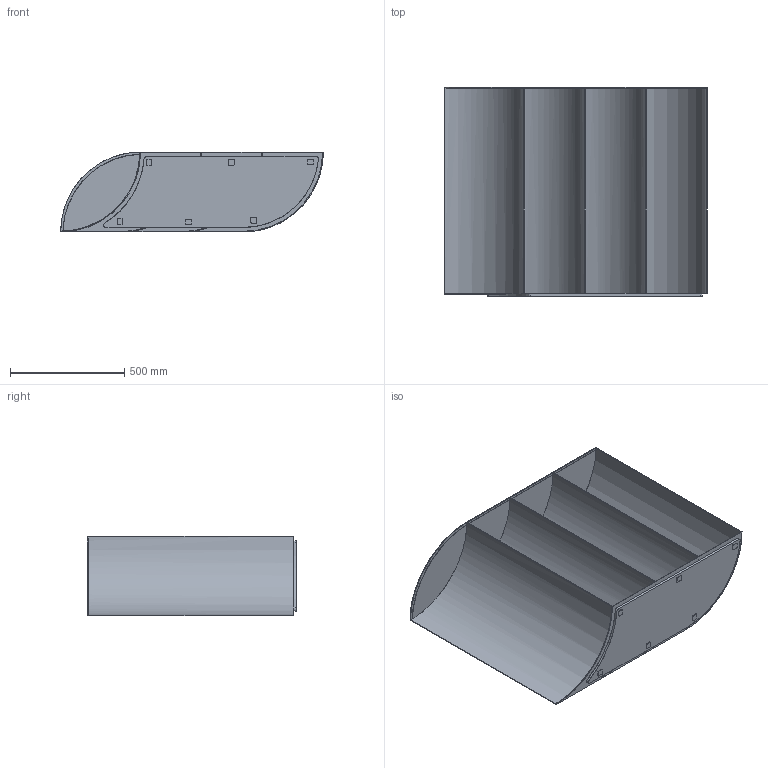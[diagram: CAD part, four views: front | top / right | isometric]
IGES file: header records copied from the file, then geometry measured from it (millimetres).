
Start section: SolidWorks IGES file using analytic representation for surfaces
Global section: file name: \\UTENTI\Dati Utenti\Tecnico\DC\2D - 3D per sito\3D\DeCastelli-3D-Sinestesia.igs; native system: SolidWorks 2022; preprocessor: SolidWorks 2022; author: filippo; date: 240724.135718; units: millimetre
Bounding box: 1150 x 919 x 350 mm (x, y, z)
Surface area: 6059228.5 mm2 (no closed solid volume)
Topology: 0 solids, 0 shells, 98 faces, 1183 edges, 1183 vertices
Faces by surface type: bspline 60, revolution 38
